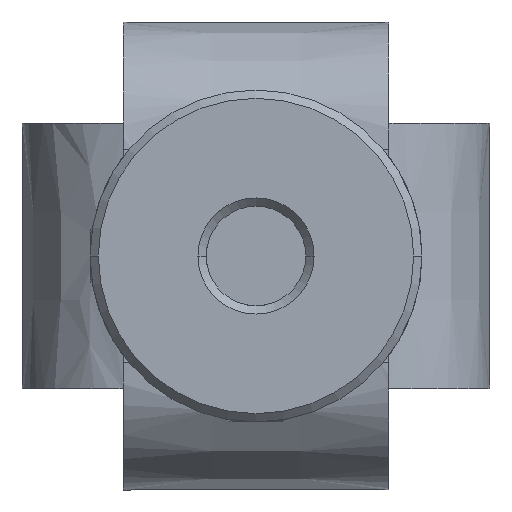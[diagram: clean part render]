
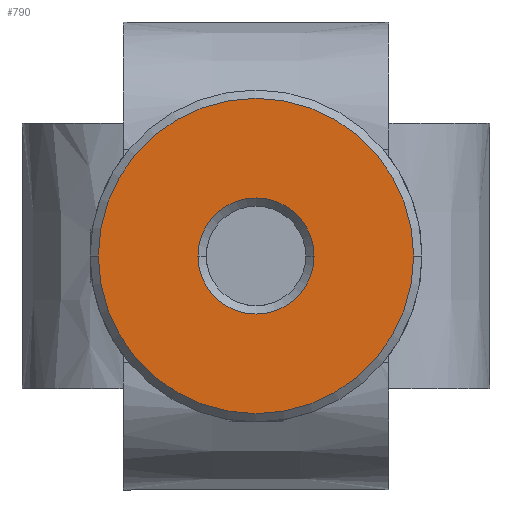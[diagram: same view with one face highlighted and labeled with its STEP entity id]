
A CAD part, front view. The second image highlights one B-rep face of the part: STEP entity #790.
In plain terms, the highlighted planar face has unit normal (0, -1, 0).
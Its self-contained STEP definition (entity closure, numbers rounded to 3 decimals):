
#4 = DIRECTION ( 'NONE',  ( 0., -1., 0. ) ) ;
#192 = EDGE_CURVE ( 'NONE', #4978, #1860, #3478, .T. ) ;
#290 = ORIENTED_EDGE ( 'NONE', *, *, #1757, .T. ) ;
#478 = CARTESIAN_POINT ( 'NONE',  ( 0., -35.24, 0. ) ) ;
#675 = CARTESIAN_POINT ( 'NONE',  ( 0., -35.24, 0. ) ) ;
#790 = ADVANCED_FACE ( 'NONE', ( #834, #3839 ), #1127, .T. ) ;
#834 = FACE_BOUND ( 'NONE', #2298, .T. ) ;
#888 = DIRECTION ( 'NONE',  ( 0., -1., 0. ) ) ;
#1127 = PLANE ( 'NONE',  #6824 ) ;
#1209 = AXIS2_PLACEMENT_3D ( 'NONE', #7752, #4797, #2411 ) ;
#1273 = DIRECTION ( 'NONE',  ( -1., 0., 0. ) ) ;
#1409 = AXIS2_PLACEMENT_3D ( 'NONE', #3288, #888, #1451 ) ;
#1420 = AXIS2_PLACEMENT_3D ( 'NONE', #478, #4670, #7607 ) ;
#1451 = DIRECTION ( 'NONE',  ( -1., 0., 0. ) ) ;
#1746 = EDGE_CURVE ( 'NONE', #6083, #3792, #3071, .T. ) ;
#1757 = EDGE_CURVE ( 'NONE', #1860, #4978, #5589, .T. ) ;
#1851 = ORIENTED_EDGE ( 'NONE', *, *, #5208, .T. ) ;
#1860 = VERTEX_POINT ( 'NONE', #7598 ) ;
#2298 = EDGE_LOOP ( 'NONE', ( #1851, #7728 ) ) ;
#2411 = DIRECTION ( 'NONE',  ( -1., 0., 0. ) ) ;
#2622 = CARTESIAN_POINT ( 'NONE',  ( 0., -35.24, 0. ) ) ;
#3071 = CIRCLE ( 'NONE', #6526, 3.5 ) ;
#3288 = CARTESIAN_POINT ( 'NONE',  ( 0., -35.24, 0. ) ) ;
#3478 = CIRCLE ( 'NONE', #1209, 9.5 ) ;
#3510 = CARTESIAN_POINT ( 'NONE',  ( -9.5, -35.24, 0. ) ) ;
#3792 = VERTEX_POINT ( 'NONE', #6550 ) ;
#3839 = FACE_OUTER_BOUND ( 'NONE', #6585, .T. ) ;
#4084 = CIRCLE ( 'NONE', #1420, 3.5 ) ;
#4670 = DIRECTION ( 'NONE',  ( 0., 1., 0. ) ) ;
#4797 = DIRECTION ( 'NONE',  ( 0., -1., 0. ) ) ;
#4974 = ORIENTED_EDGE ( 'NONE', *, *, #192, .T. ) ;
#4978 = VERTEX_POINT ( 'NONE', #3510 ) ;
#5208 = EDGE_CURVE ( 'NONE', #3792, #6083, #4084, .T. ) ;
#5589 = CIRCLE ( 'NONE', #1409, 9.5 ) ;
#6044 = CARTESIAN_POINT ( 'NONE',  ( 3.5, -35.24, 0. ) ) ;
#6083 = VERTEX_POINT ( 'NONE', #6044 ) ;
#6526 = AXIS2_PLACEMENT_3D ( 'NONE', #2622, #6838, #7498 ) ;
#6550 = CARTESIAN_POINT ( 'NONE',  ( -3.5, -35.24, 0. ) ) ;
#6585 = EDGE_LOOP ( 'NONE', ( #290, #4974 ) ) ;
#6824 = AXIS2_PLACEMENT_3D ( 'NONE', #675, #4, #1273 ) ;
#6838 = DIRECTION ( 'NONE',  ( 0., 1., 0. ) ) ;
#7498 = DIRECTION ( 'NONE',  ( -1., 0., 0. ) ) ;
#7598 = CARTESIAN_POINT ( 'NONE',  ( 9.5, -35.24, 0. ) ) ;
#7607 = DIRECTION ( 'NONE',  ( -1., 0., 0. ) ) ;
#7728 = ORIENTED_EDGE ( 'NONE', *, *, #1746, .T. ) ;
#7752 = CARTESIAN_POINT ( 'NONE',  ( 0., -35.24, 0. ) ) ;
